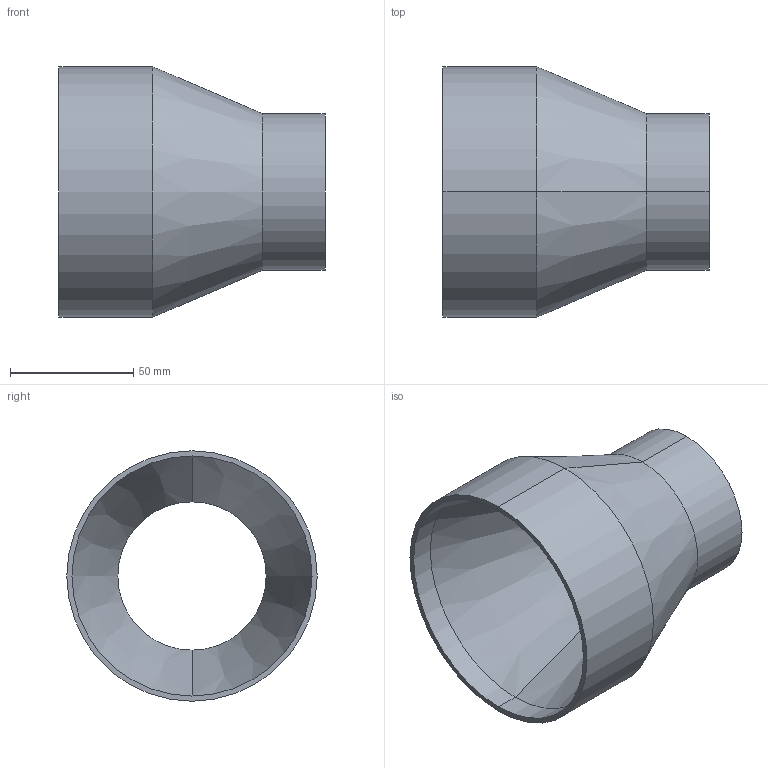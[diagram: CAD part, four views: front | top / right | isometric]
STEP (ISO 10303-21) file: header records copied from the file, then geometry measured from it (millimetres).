
FILE_DESCRIPTION (( 'STEP AP214' ), '1' );
FILE_NAME ('TE31SWW6L4.0x2.5-...STEP', '2016-05-29T10:09:21', ( 'eran' ), ( '' ), 'SwSTEP 2.0', 'SolidWorks 2016', '' );
FILE_SCHEMA (( 'AUTOMOTIVE_DESIGN' ));
Length unit declared in the file: millimetre
Products named in the file (1): TE31SWW6L4.0x2.5-..
Bounding box: 107.95 x 101.6 x 101.6 mm (x, y, z)
Volume: 177711.9 mm3; surface area: 55959.3 mm2
Topology: 1 solids, 1 shells, 14 faces, 28 edges, 16 vertices
Faces by surface type: cylinder 8, cone 4, plane 2
Entity records: 402 total; most frequent: DIRECTION 74, CARTESIAN_POINT 59, ORIENTED_EDGE 56, AXIS2_PLACEMENT_3D 31, EDGE_CURVE 28, VERTEX_POINT 16, CIRCLE 16, EDGE_LOOP 16
